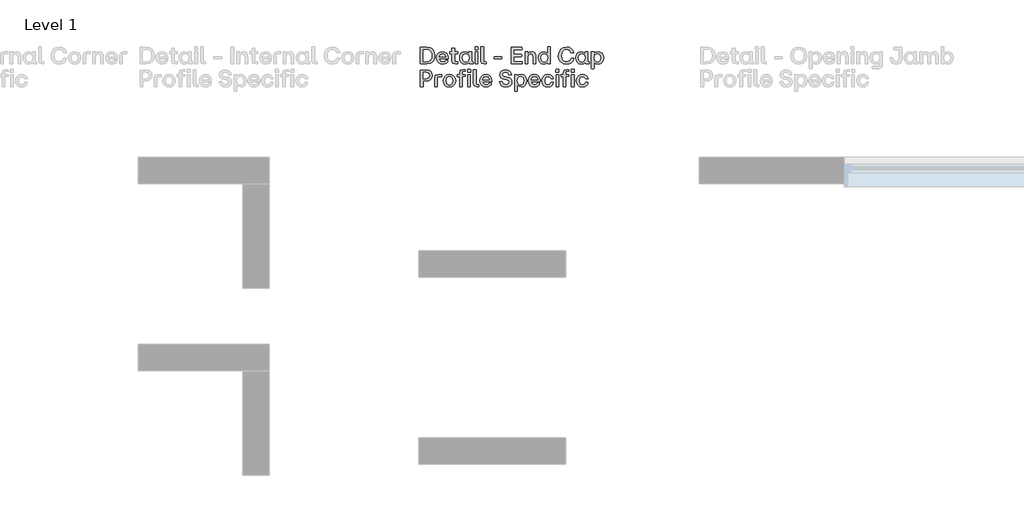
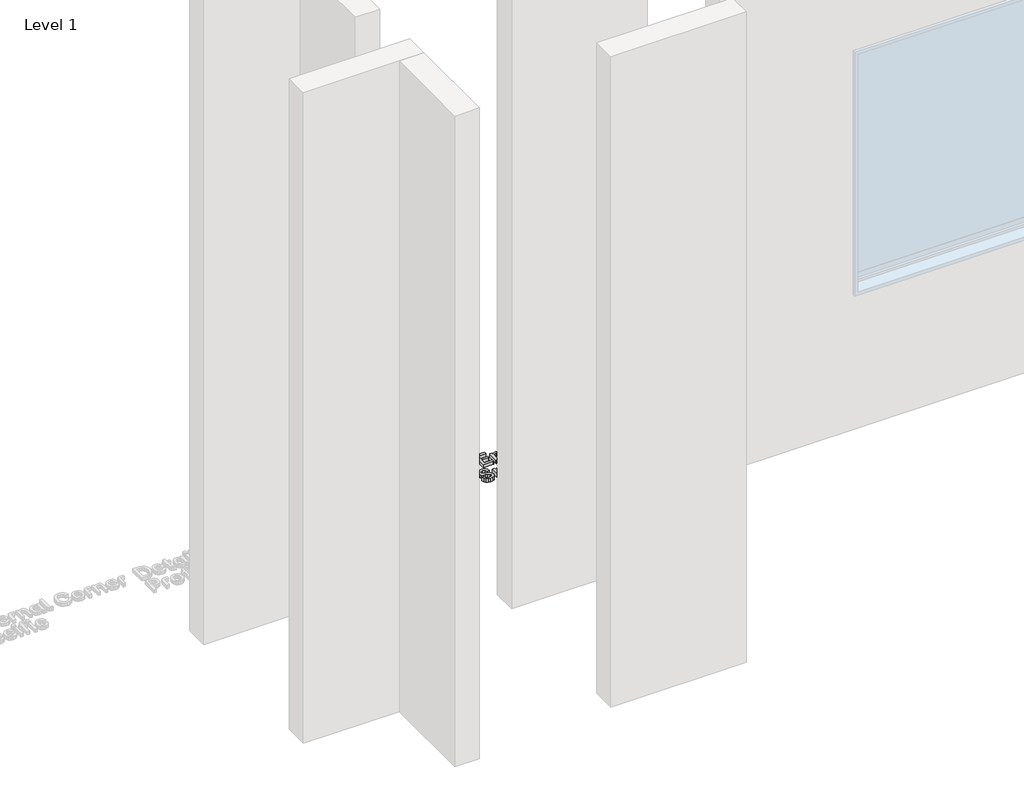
# One storey, part 36 of 64: 1 proxy.
"""IFC4 building model written with IfcOpenShell, lengths in millimetres."""

from ifc_helpers import new_model, si_unit, origin, origin_with_axes, place, context, project, spatial, polyline, outline, extrude, element, save

model = new_model("IFC4")

# Units and contexts
model_context = context("Model", 3, world=origin())
ifc_project = project(units=[si_unit("LENGTHUNIT", "METRE", prefix="MILLI")], contexts=[model_context])

# Site, building, storey
site = spatial("IfcSite", under=ifc_project)
building = spatial("IfcBuilding", under=site)
storey = spatial("IfcBuildingStorey", under=building, Name="Level 1", Elevation=0.0)

# Proxy
placement = place(None, origin())
element("IfcBuildingElementProxy", 1, Name="90mm", ObjectType="90mm", at=placement, inside=storey, context=model_context, shape_type="SweptSolid", body=[
    extrude(outline(polyline([(12110.2926176, -6500.0), (12108.9872124, -6498.7448027), (12108.9872124, -6411.3077612), (12142.5511873, -6410.002356), (12160.5475781, -6413.0054155), (12174.1193986, -6422.0145938), (12182.63905, -6436.3583606), (12185.4789338, -6455.3651852), (12182.648464, -6474.2025582), (12174.1570545, -6488.2890095), (12160.594648, -6497.0722524), (12142.5511873, -6500.0), (12110.2926176, -6500.0)]), holes=[polyline([(12123.7985402, -6487.3727155), (12141.6725492, -6487.3727155), (12153.8950326, -6485.311054), (12162.9481429, -6479.1260695), (12168.5494607, -6469.0625254), (12170.4165666, -6455.3651852), (12168.5431847, -6441.5109454), (12162.923039, -6431.1775339), (12153.8636527, -6424.7477859), (12141.6725492, -6422.6045366), (12123.7985402, -6422.6045366), (12123.7985402, -6487.3727155)])]), origin_with_axes(), (0.0, 0.0, 1.0), 20.0),
    extrude(outline(polyline([(12227.628458, -6500.7531184), (12214.0409476, -6498.4843493), (12203.5035666, -6491.6780421), (12196.7443293, -6481.0622112), (12194.4912502, -6467.3648711), (12196.7349153, -6453.5012173), (12203.4659107, -6442.7881086), (12213.9938777, -6435.9347315), (12227.628458, -6433.6502725), (12240.1584647, -6435.9033516), (12249.7324819, -6442.6625889), (12255.8044987, -6453.3129377), (12257.8285043, -6467.2393514), (12257.8285043, -6470.6785919), (12256.573307, -6472.009101), (12209.1268503, -6472.009101), (12214.6497183, -6484.6865934), (12227.628458, -6489.2053035), (12238.0465953, -6486.9082925), (12243.4439436, -6480.4691305), (12244.8246606, -6479.4147648), (12256.1967478, -6479.4147648), (12254.1633282, -6488.7314665), (12247.8120301, -6495.1925945), (12238.8248176, -6499.3629874), (12227.628458, -6500.7531184)]), holes=[polyline([(12209.2523701, -6461.5909637), (12243.8205028, -6461.5909637), (12239.0633051, -6449.6289337), (12227.628458, -6445.2733992), (12214.8631018, -6449.4155502), (12209.2523701, -6461.5909637)])]), origin_with_axes(), (0.0, 0.0, 1.0), 20.0),
    extrude(outline(polyline([(12296.6140998, -6500.0), (12282.731618, -6495.2302504), (12277.9618684, -6481.3477686), (12277.9618684, -6445.7754781), (12266.7906127, -6445.7754781), (12265.4852076, -6435.7339), (12266.7906127, -6434.4787027), (12277.9618684, -6434.4787027), (12277.9618684, -6416.45407), (12279.2170657, -6415.1486648), (12290.9657121, -6415.1486648), (12292.2209094, -6416.45407), (12292.2209094, -6434.4787027), (12308.0363949, -6434.4787027), (12309.3418001, -6435.7339), (12309.3418001, -6444.444969), (12292.2209094, -6445.7754781), (12292.2209094, -6488.7032246), (12308.0363949, -6488.7032246), (12309.3418001, -6489.9584219), (12309.3418001, -6498.7448027), (12308.0363949, -6500.0), (12296.6140998, -6500.0)])), origin_with_axes(), (0.0, 0.0, 1.0), 20.0),
    extrude(outline(polyline([(12347.2738615, -6500.7531184), (12335.3243835, -6498.4843493), (12326.0861316, -6491.6780421), (12320.1741525, -6481.0622112), (12318.2034928, -6467.3648711), (12320.1741525, -6453.5325972), (12326.0861316, -6442.8132125), (12335.3243835, -6435.9410075), (12347.2738615, -6433.6502725), (12359.1856835, -6436.5372262), (12368.160344, -6444.444969), (12368.7377347, -6435.7339), (12369.992932, -6434.4787027), (12381.6662665, -6434.4787027), (12382.9716717, -6435.7339), (12382.9716717, -6488.7032246), (12390.0760882, -6488.7032246), (12391.3312855, -6489.9584219), (12391.3312855, -6498.7448027), (12390.0760882, -6500.0), (12380.536589, -6500.0), (12372.1581473, -6497.6465051), (12369.3653333, -6490.5860205), (12359.7254183, -6497.8661646), (12347.2738615, -6500.7531184)]), holes=[polyline([(12332.7135732, -6467.3648711), (12337.6716024, -6483.3686362), (12343.5365116, -6487.7461367), (12351.2151809, -6489.2053035), (12358.7714684, -6487.7524127), (12364.470064, -6483.3937402), (12369.2398136, -6467.3648711), (12364.4324081, -6451.1728263), (12358.7243985, -6446.748256), (12351.2151809, -6445.2733992), (12343.5365116, -6446.748256), (12337.6716024, -6451.1728263), (12332.7135732, -6467.3648711)])]), origin_with_axes(), (0.0, 0.0, 1.0), 20.0),
    extrude(outline(polyline([(12403.6824266, -6500.0), (12402.3770214, -6498.7448027), (12402.3770214, -6435.7339), (12403.6824266, -6434.4787027), (12415.3557612, -6434.4787027), (12416.6109584, -6435.7339), (12416.6109584, -6498.7448027), (12415.3557612, -6500.0), (12403.6824266, -6500.0)])), origin_with_axes(), (0.0, 0.0, 1.0), 20.0),
    extrude(outline(polyline([(12401.3728636, -6421.8514182), (12401.3728636, -6407.9940404), (12402.6280609, -6406.6635313), (12416.4854387, -6406.6635313), (12417.8159478, -6421.8514182), (12416.4854387, -6423.1066155), (12402.6280609, -6423.1066155), (12401.3728636, -6421.8514182)])), origin_with_axes(), (0.0, 0.0, 1.0), 20.0),
    extrude(outline(polyline([(12451.5305464, -6500.0), (12437.6731686, -6495.2302504), (12432.903419, -6481.3477686), (12432.903419, -6408.7471587), (12445.8821587, -6407.4166496), (12447.137356, -6408.7471587), (12447.137356, -6488.7032246), (12459.1370418, -6488.7032246), (12460.3922391, -6489.9584219), (12460.3922391, -6498.7448027), (12459.1370418, -6500.0), (12451.5305464, -6500.0)])), origin_with_axes(), (0.0, 0.0, 1.0), 20.0),
    extrude(outline(polyline([(12505.1776775, -6472.887739), (12503.9224803, -6471.5572299), (12503.9224803, -6461.5909637), (12505.1776775, -6460.2604546), (12543.7875455, -6460.2604546), (12545.0427427, -6461.5909637), (12545.0427427, -6471.5572299), (12543.7875455, -6472.887739), (12505.1776775, -6472.887739)])), origin_with_axes(), (0.0, 0.0, 1.0), 20.0),
    extrude(outline(polyline([(12595.5016728, -6500.0), (12594.1962677, -6498.7448027), (12594.1962677, -6411.3077612), (12652.3119011, -6410.002356), (12653.6173063, -6421.3493393), (12652.3119011, -6422.6045366), (12609.0075954, -6422.6045366), (12609.0075954, -6448.4616002), (12649.7261947, -6448.4616002), (12651.0567038, -6449.7167975), (12651.0567038, -6459.7583756), (12649.7261947, -6461.0135729), (12609.0075954, -6461.0135729), (12609.0075954, -6487.3727155), (12653.6173063, -6487.3727155), (12654.8725035, -6488.7032246), (12654.8725035, -6498.7448027), (12653.6173063, -6500.0), (12595.5016728, -6500.0)])), origin_with_axes(), (0.0, 0.0, 1.0), 20.0),
    extrude(outline(polyline([(12670.3867417, -6500.0), (12669.0813366, -6498.7448027), (12669.0813366, -6435.7339), (12670.3867417, -6434.4787027), (12681.4324777, -6434.4787027), (12682.6876749, -6435.7339), (12682.6876749, -6444.444969), (12691.9824107, -6436.3489466), (12703.9005087, -6433.6502725), (12713.8259811, -6435.5330684), (12721.1092633, -6441.1814561), (12725.5809035, -6450.4573639), (12727.0714503, -6463.2227201), (12727.0714503, -6498.7448027), (12725.7409412, -6500.0), (12714.0676066, -6500.0), (12712.7622014, -6498.7448027), (12712.7622014, -6463.2227201), (12709.2476491, -6449.942733), (12698.1391533, -6445.7754781), (12686.9302417, -6450.0054929), (12683.3152736, -6463.2227201), (12683.3152736, -6498.7448027), (12682.0600763, -6500.0), (12670.3867417, -6500.0)])), origin_with_axes(), (0.0, 0.0, 1.0), 20.0),
    extrude(outline(polyline([(12768.2168167, -6500.7531184), (12756.2673387, -6498.4843493), (12747.0290868, -6491.6780421), (12741.1171077, -6481.0622112), (12739.146448, -6467.3648711), (12741.1171077, -6453.5325972), (12747.0290868, -6442.8132125), (12756.2673387, -6435.9410075), (12768.2168167, -6433.6502725), (12780.1286387, -6436.5372262), (12789.1032992, -6444.444969), (12789.6806899, -6408.7471587), (12790.9358872, -6407.4166496), (12802.6092218, -6407.4166496), (12803.9146269, -6498.7448027), (12802.6092218, -6500.0), (12791.5634858, -6500.0), (12790.3082886, -6498.7448027), (12790.3082886, -6490.0839416), (12780.6683735, -6497.8661646), (12768.2168167, -6500.7531184)]), holes=[polyline([(12753.6565284, -6467.3648711), (12758.6145576, -6483.3686362), (12764.4794668, -6487.7461367), (12772.1581361, -6489.2053035), (12779.7144236, -6487.7524127), (12785.4130192, -6483.3937402), (12790.1827688, -6467.3648711), (12785.3753633, -6451.1728263), (12779.6673537, -6446.748256), (12772.1581361, -6445.2733992), (12764.4794668, -6446.748256), (12758.6145576, -6451.1728263), (12753.6565284, -6467.3648711)])]), origin_with_axes(), (0.0, 0.0, 1.0), 20.0),
    extrude(outline(polyline([(12891.100629, -6500.7531184), (12873.0885483, -6497.6684711), (12859.2186185, -6488.4145292), (12850.3694777, -6473.8887589), (12847.4197642, -6454.988626), (12850.3945817, -6436.4054305), (12859.3190343, -6421.8263143), (12873.214068, -6412.3935068), (12891.100629, -6409.2492376), (12905.0490087, -6411.3265891), (12916.6187895, -6417.5586436), (12924.9376093, -6427.2424905), (12929.1331062, -6439.6752194), (12915.9535349, -6441.1312482), (12914.52261, -6440.0015707), (12906.6587992, -6426.3889563), (12891.100629, -6421.8514182), (12879.176255, -6424.0731174), (12870.1137307, -6430.7382148), (12864.3900312, -6441.244216), (12862.4821314, -6454.988626), (12864.3806172, -6468.9464196), (12870.0760748, -6479.4398688), (12879.1291851, -6486.0108265), (12891.100629, -6488.2011457), (12906.9663225, -6483.7263674), (12915.4012481, -6470.3020327), (12916.832173, -6469.1221472), (12928.756547, -6469.1221472), (12925.5840359, -6482.8791093), (12917.1208684, -6492.4688164), (12905.362808, -6498.6820429), (12891.100629, -6500.7531184)])), origin_with_axes(), (0.0, 0.0, 1.0), 20.0),
    extrude(outline(polyline([(12969.0483793, -6500.7531184), (12957.0989013, -6498.4843493), (12947.8606494, -6491.6780421), (12941.9486703, -6481.0622112), (12939.9780106, -6467.3648711), (12941.9486703, -6453.5325972), (12947.8606494, -6442.8132125), (12957.0989013, -6435.9410075), (12969.0483793, -6433.6502725), (12980.9602013, -6436.5372262), (12989.9348618, -6444.444969), (12990.5122525, -6435.7339), (12991.7674498, -6434.4787027), (13003.4407844, -6434.4787027), (13004.7461895, -6435.7339), (13004.7461895, -6488.7032246), (13011.850606, -6488.7032246), (13013.1058033, -6489.9584219), (13013.1058033, -6498.7448027), (13011.850606, -6500.0), (13002.3111068, -6500.0), (12993.9326651, -6497.6465051), (12991.1398512, -6490.5860205), (12981.4999362, -6497.8661646), (12969.0483793, -6500.7531184)]), holes=[polyline([(12954.488091, -6467.3648711), (12959.4461202, -6483.3686362), (12965.3110294, -6487.7461367), (12972.9896987, -6489.2053035), (12980.5459862, -6487.7524127), (12986.2445818, -6483.3937402), (12991.0143314, -6467.3648711), (12986.2069259, -6451.1728263), (12980.4989163, -6446.748256), (12972.9896987, -6445.2733992), (12965.3110294, -6446.748256), (12959.4461202, -6451.1728263), (12954.488091, -6467.3648711)])]), origin_with_axes(), (0.0, 0.0, 1.0), 20.0),
    extrude(outline(polyline([(13025.4569444, -6524.4010349), (13024.1515393, -6523.1458376), (13024.1515393, -6435.7339), (13025.4569444, -6434.4787027), (13036.5026804, -6434.4787027), (13037.7578776, -6435.7339), (13037.7578776, -6444.3194493), (13047.3977926, -6436.5372262), (13059.8493495, -6433.6502725), (13071.7988275, -6435.9253176), (13081.0370794, -6442.7504527), (13086.9490585, -6453.3913875), (13088.9197182, -6467.1138316), (13086.9490585, -6480.9210016), (13081.0370794, -6491.6152823), (13071.7988275, -6498.4686593), (13059.8493495, -6500.7531184), (13047.9375275, -6497.8661646), (13038.962867, -6489.9584219), (13038.3854763, -6523.1458376), (13037.130279, -6524.4010349), (13025.4569444, -6524.4010349)]), holes=[polyline([(13037.8833974, -6467.1138316), (13042.6908029, -6483.3058764), (13048.3988125, -6487.7304467), (13055.9080301, -6489.2053035), (13063.5866994, -6487.7304467), (13069.4516086, -6483.3058764), (13074.4096378, -6467.1138316), (13069.4516086, -6451.1100665), (13063.5866994, -6446.732566), (13055.9080301, -6445.2733992), (13048.3517426, -6446.723152), (13042.653147, -6451.0724106), (13037.8833974, -6467.1138316)])]), origin_with_axes(), (0.0, 0.0, 1.0), 20.0),
    extrude(outline(polyline([(12110.2926176, -6622.13305), (12108.9872124, -6620.8778528), (12108.9872124, -6533.4408112), (12140.1161046, -6532.135406), (12154.0174144, -6534.0338919), (12164.3414119, -6539.7293495), (12170.7429179, -6548.9236695), (12172.8767533, -6561.3187425), (12170.7429179, -6573.7138155), (12164.3414119, -6582.9081354), (12154.0174144, -6588.603593), (12140.1161046, -6590.5020789), (12123.7985402, -6590.5020789), (12123.7985402, -6620.8778528), (12122.4680311, -6622.13305), (12110.2926176, -6622.13305)]), holes=[polyline([(12123.7985402, -6577.8747944), (12140.1161046, -6577.8747944), (12153.5969233, -6573.7954033), (12157.9901137, -6561.3061905), (12153.5969233, -6548.8169777), (12140.1161046, -6544.7375866), (12123.7985402, -6544.7375866), (12123.7985402, -6577.8747944)])]), origin_with_axes(), (0.0, 0.0, 1.0), 20.0),
    extrude(outline(polyline([(12186.1065325, -6622.13305), (12184.8513352, -6620.8778528), (12184.8513352, -6575.1886723), (12189.6210848, -6561.3438464), (12203.4784626, -6556.6117527), (12221.7541348, -6556.6117527), (12223.0093321, -6557.86695), (12223.0093321, -6567.4064492), (12221.7541348, -6568.6616465), (12199.0852722, -6568.6616465), (12199.0852722, -6620.8778528), (12197.8300749, -6622.13305), (12186.1065325, -6622.13305)])), origin_with_axes(), (0.0, 0.0, 1.0), 20.0),
    extrude(outline(polyline([(12264.2049064, -6622.8861684), (12250.9782652, -6620.5797434), (12240.519334, -6613.6604685), (12233.7130268, -6603.0069817), (12231.4442577, -6589.4979211), (12233.7193028, -6575.9009967), (12240.5444379, -6565.1345422), (12251.0096451, -6558.1211274), (12264.2049064, -6555.7833225), (12277.5570673, -6558.1211274), (12288.0913103, -6565.1345422), (12294.9352734, -6575.9009967), (12297.2165945, -6589.4979211), (12294.9352734, -6603.0069817), (12288.0913103, -6613.6604685), (12277.5570673, -6620.5797434), (12264.2049064, -6622.8861684)]), holes=[polyline([(12245.9543381, -6589.4979211), (12250.8119515, -6605.5267902), (12256.588997, -6609.8854627), (12264.2049064, -6611.3383535), (12271.9024036, -6609.8791867), (12277.7735888, -6605.5016862), (12282.731618, -6589.4979211), (12277.7986928, -6573.3058764), (12271.9337835, -6568.881306), (12264.2049064, -6567.4064492), (12256.588997, -6568.881306), (12250.8119515, -6573.3058764), (12245.9543381, -6589.4979211)])]), origin_with_axes(), (0.0, 0.0, 1.0), 20.0),
    extrude(outline(polyline([(12362.3111247, -6620.8778528), (12362.3111247, -6557.86695), (12363.6416338, -6556.6117527), (12375.3149684, -6556.6117527), (12376.6203735, -6557.86695), (12376.6203735, -6620.8778528), (12375.3149684, -6622.13305), (12363.6416338, -6622.13305), (12362.3111247, -6620.8778528)])), origin_with_axes(), (0.0, 0.0, 1.0), 20.0),
    extrude(outline(polyline([(12319.3833782, -6622.13305), (12318.1281809, -6620.8778528), (12318.1281809, -6567.9085281), (12306.9569253, -6567.9085281), (12305.6515201, -6557.86695), (12306.9569253, -6556.6117527), (12318.1281809, -6556.6117527), (12318.1281809, -6548.201931), (12322.8979305, -6534.3194493), (12336.7804123, -6529.5496997), (12348.2027074, -6529.5496997), (12349.5081126, -6539.5912778), (12332.3872219, -6540.9217869), (12332.3872219, -6556.6117527), (12348.2027074, -6556.6117527), (12349.5081126, -6557.86695), (12349.5081126, -6566.578019), (12332.3872219, -6567.9085281), (12332.3872219, -6620.8778528), (12331.1320246, -6622.13305), (12319.3833782, -6622.13305)])), origin_with_axes(), (0.0, 0.0, 1.0), 20.0),
    extrude(outline(polyline([(12361.3069669, -6543.9844682), (12361.3069669, -6530.1270904), (12362.5621642, -6528.7965813), (12376.4948538, -6528.7965813), (12377.7500511, -6530.1270904), (12377.7500511, -6543.9844682), (12376.4948538, -6545.2396655), (12362.5621642, -6545.2396655), (12361.3069669, -6543.9844682)])), origin_with_axes(), (0.0, 0.0, 1.0), 20.0),
    extrude(outline(polyline([(12411.3642339, -6622.13305), (12397.506856, -6617.3633004), (12392.7371064, -6603.4808186), (12392.7371064, -6530.8802088), (12405.7158462, -6529.5496997), (12406.9710434, -6530.8802088), (12406.9710434, -6610.8362746), (12418.9707293, -6610.8362746), (12420.2259266, -6612.0914719), (12420.2259266, -6620.8778528), (12418.9707293, -6622.13305), (12411.3642339, -6622.13305)])), origin_with_axes(), (0.0, 0.0, 1.0), 20.0),
    extrude(outline(polyline([(12460.5930707, -6622.8861684), (12447.0055602, -6620.6173993), (12436.4681792, -6613.8110921), (12429.7089419, -6603.1952613), (12427.4558628, -6589.4979211), (12429.6995279, -6575.6342673), (12436.4305233, -6564.9211586), (12446.9584903, -6558.0677815), (12460.5930707, -6555.7833225), (12473.1230774, -6558.0364016), (12482.6970945, -6564.7956389), (12488.7691113, -6575.4459877), (12490.7931169, -6589.3724014), (12490.7931169, -6592.8116419), (12489.5379196, -6594.142151), (12442.0914629, -6594.142151), (12447.6143309, -6606.8196434), (12460.5930707, -6611.3383535), (12471.011208, -6609.0413425), (12476.4085562, -6602.6021806), (12477.7892732, -6601.5478148), (12489.1613604, -6601.5478148), (12487.1279409, -6610.8645166), (12480.7766427, -6617.3256445), (12471.7894303, -6621.4960374), (12460.5930707, -6622.8861684)]), holes=[polyline([(12442.2169827, -6583.7240137), (12476.7851154, -6583.7240137), (12472.0279177, -6571.7619837), (12460.5930707, -6567.4064492), (12447.8277145, -6571.5486002), (12442.2169827, -6583.7240137)])]), origin_with_axes(), (0.0, 0.0, 1.0), 20.0),
    extrude(outline(polyline([(12566.8831752, -6622.8861684), (12553.1136611, -6621.0347524), (12542.4319324, -6615.4805045), (12535.1706162, -6606.5058441), (12531.6623399, -6594.3931904), (12544.917223, -6592.9371616), (12546.2226282, -6594.142151), (12552.4107507, -6606.6941236), (12566.8831752, -6610.5852352), (12579.3974919, -6607.007923), (12583.8785461, -6597.0793126), (12580.7782089, -6588.8326665), (12570.3977275, -6584.7281715), (12558.5235614, -6582.644544), (12547.5186193, -6579.3904451), (12539.6579465, -6574.0715467), (12534.9415427, -6566.6878488), (12533.3694082, -6557.2393514), (12535.3839998, -6546.397585), (12541.4277746, -6538.2231128), (12551.0802416, -6533.0924939), (12563.9209096, -6531.3822877), (12576.6548859, -6533.1144599), (12586.5897722, -6538.3109766), (12593.3803895, -6546.6643144), (12596.6815583, -6557.86695), (12583.501987, -6559.2978749), (12582.0710621, -6557.86695), (12576.2594987, -6547.1601173), (12563.9209096, -6543.7334288), (12552.1597112, -6546.8714219), (12548.1054241, -6556.034362), (12551.7203922, -6564.732879), (12563.0422715, -6569.2892451), (12574.8411258, -6571.3477686), (12585.6609263, -6574.5171417), (12593.0163822, -6579.6069666), (12597.2338451, -6586.9373187), (12598.639666, -6596.8282731), (12596.5277966, -6607.7422134), (12590.1921884, -6615.9825834), (12580.1411963, -6621.1602721), (12566.8831752, -6622.8861684)])), origin_with_axes(), (0.0, 0.0, 1.0), 20.0),
    extrude(outline(polyline([(12614.1539042, -6646.5340849), (12612.848499, -6645.2788876), (12612.848499, -6557.86695), (12614.1539042, -6556.6117527), (12625.1996401, -6556.6117527), (12626.4548374, -6557.86695), (12626.4548374, -6566.4524993), (12636.0947524, -6558.6702762), (12648.5463093, -6555.7833225), (12660.4957873, -6558.0583676), (12669.7340392, -6564.8835027), (12675.6460183, -6575.5244375), (12677.616678, -6589.2468816), (12675.6460183, -6603.0540516), (12669.7340392, -6613.7483323), (12660.4957873, -6620.6017094), (12648.5463093, -6622.8861684), (12636.6344872, -6619.9992147), (12627.6598268, -6612.0914719), (12627.082436, -6645.2788876), (12625.8272388, -6646.5340849), (12614.1539042, -6646.5340849)]), holes=[polyline([(12626.5803571, -6589.2468816), (12631.3877627, -6605.4389264), (12637.0957722, -6609.8634967), (12644.6049899, -6611.3383535), (12652.2836592, -6609.8634967), (12658.1485684, -6605.4389264), (12663.1065976, -6589.2468816), (12658.1485684, -6573.2431165), (12652.2836592, -6568.865616), (12644.6049899, -6567.4064492), (12637.0487023, -6568.856202), (12631.3501068, -6573.2054606), (12626.5803571, -6589.2468816)])]), origin_with_axes(), (0.0, 0.0, 1.0), 20.0),
    extrude(outline(polyline([(12719.2641233, -6622.8861684), (12705.6766129, -6620.6173993), (12695.1392318, -6613.8110921), (12688.3799945, -6603.1952613), (12686.1269155, -6589.4979211), (12688.3705806, -6575.6342673), (12695.1015759, -6564.9211586), (12705.629543, -6558.0677815), (12719.2641233, -6555.7833225), (12731.79413, -6558.0364016), (12741.3681471, -6564.7956389), (12747.4401639, -6575.4459877), (12749.4641695, -6589.3724014), (12749.4641695, -6592.8116419), (12748.2089722, -6594.142151), (12700.7625156, -6594.142151), (12706.2853836, -6606.8196434), (12719.2641233, -6611.3383535), (12729.6822606, -6609.0413425), (12735.0796088, -6602.6021806), (12736.4603258, -6601.5478148), (12747.8324131, -6601.5478148), (12745.7989935, -6610.8645166), (12739.4476953, -6617.3256445), (12730.4604829, -6621.4960374), (12719.2641233, -6622.8861684)]), holes=[polyline([(12700.8880353, -6583.7240137), (12735.456168, -6583.7240137), (12730.6989704, -6571.7619837), (12719.2641233, -6567.4064492), (12706.4987671, -6571.5486002), (12700.8880353, -6583.7240137)])]), origin_with_axes(), (0.0, 0.0, 1.0), 20.0),
    extrude(outline(polyline([(12791.4379661, -6622.8861684), (12777.9445955, -6620.6173993), (12767.4385944, -6613.8110921), (12760.6793571, -6603.1952613), (12758.426278, -6589.4979211), (12760.710737, -6575.9009967), (12767.5641141, -6565.1345422), (12778.1014951, -6558.1211274), (12791.4379661, -6555.7833225), (12802.4209422, -6557.3303532), (12811.3704987, -6561.971445), (12817.6841409, -6569.1543114), (12820.7593742, -6578.3266654), (12808.1320897, -6579.7073824), (12801.7054797, -6570.1678832), (12791.4379661, -6567.4064492), (12783.680847, -6568.881306), (12777.8316277, -6573.3058764), (12772.9363584, -6589.4979211), (12777.8567317, -6605.5644461), (12783.7122269, -6609.8948767), (12791.4379661, -6611.3383535), (12802.019279, -6608.7024393), (12807.3789714, -6600.1670979), (12808.7596884, -6598.9621085), (12820.1317756, -6598.9621085), (12818.12346, -6609.4712476), (12811.7470579, -6616.6980459), (12802.7033616, -6621.3391377), (12791.4379661, -6622.8861684)])), origin_with_axes(), (0.0, 0.0, 1.0), 20.0),
    extrude(outline(polyline([(12835.8719493, -6622.13305), (12834.5665442, -6620.8778528), (12834.5665442, -6557.86695), (12835.8719493, -6556.6117527), (12847.5452839, -6556.6117527), (12848.8004812, -6557.86695), (12848.8004812, -6620.8778528), (12847.5452839, -6622.13305), (12835.8719493, -6622.13305)])), origin_with_axes(), (0.0, 0.0, 1.0), 20.0),
    extrude(outline(polyline([(12833.5623863, -6543.9844682), (12833.5623863, -6530.1270904), (12834.8175836, -6528.7965813), (12848.6749614, -6528.7965813), (12850.0054705, -6543.9844682), (12848.6749614, -6545.2396655), (12834.8175836, -6545.2396655), (12833.5623863, -6543.9844682)])), origin_with_axes(), (0.0, 0.0, 1.0), 20.0),
    extrude(outline(polyline([(12873.678491, -6622.13305), (12872.4232937, -6620.8778528), (12872.4232937, -6567.9085281), (12861.252038, -6567.9085281), (12859.9466329, -6557.86695), (12861.252038, -6556.6117527), (12872.4232937, -6556.6117527), (12872.4232937, -6548.201931), (12877.1930433, -6534.3194493), (12891.0755251, -6529.5496997), (12902.4978202, -6529.5496997), (12903.8032254, -6539.5912778), (12886.6823347, -6540.9217869), (12886.6823347, -6556.6117527), (12902.4978202, -6556.6117527), (12903.8032254, -6557.86695), (12903.8032254, -6566.578019), (12886.6823347, -6567.9085281), (12886.6823347, -6620.8778528), (12885.4271374, -6622.13305), (12873.678491, -6622.13305)])), origin_with_axes(), (0.0, 0.0, 1.0), 20.0),
    extrude(outline(polyline([(12915.6020797, -6543.9844682), (12915.6020797, -6530.1270904), (12916.8572769, -6528.7965813), (12930.7899666, -6528.7965813), (12932.0451639, -6530.1270904), (12932.0451639, -6543.9844682), (12930.7899666, -6545.2396655), (12916.8572769, -6545.2396655), (12915.6020797, -6543.9844682)])), origin_with_axes(), (0.0, 0.0, 1.0), 20.0),
    extrude(outline(polyline([(12916.6062375, -6620.8778528), (12916.6062375, -6557.86695), (12917.9367466, -6556.6117527), (12929.6100812, -6556.6117527), (12930.9154863, -6557.86695), (12930.9154863, -6620.8778528), (12929.6100812, -6622.13305), (12917.9367466, -6622.13305), (12916.6062375, -6620.8778528)])), origin_with_axes(), (0.0, 0.0, 1.0), 20.0),
    extrude(outline(polyline([(12976.2030037, -6622.8861684), (12962.7096331, -6620.6173993), (12952.203632, -6613.8110921), (12945.4443947, -6603.1952613), (12943.1913156, -6589.4979211), (12945.4757746, -6575.9009967), (12952.3291517, -6565.1345422), (12962.8665327, -6558.1211274), (12976.2030037, -6555.7833225), (12987.1859798, -6557.3303532), (12996.1355363, -6561.971445), (13002.4491785, -6569.1543114), (13005.5244118, -6578.3266654), (12992.8971273, -6579.7073824), (12986.4705173, -6570.1678832), (12976.2030037, -6567.4064492), (12968.4458846, -6568.881306), (12962.5966653, -6573.3058764), (12957.701396, -6589.4979211), (12962.6217693, -6605.5644461), (12968.4772645, -6609.8948767), (12976.2030037, -6611.3383535), (12986.7843166, -6608.7024393), (12992.144009, -6600.1670979), (12993.524726, -6598.9621085), (13004.8968132, -6598.9621085), (13002.8884976, -6609.4712476), (12996.5120955, -6616.6980459), (12987.4683992, -6621.3391377), (12976.2030037, -6622.8861684)])), origin_with_axes(), (0.0, 0.0, 1.0), 20.0),
])

save(model, "model.ifc")
